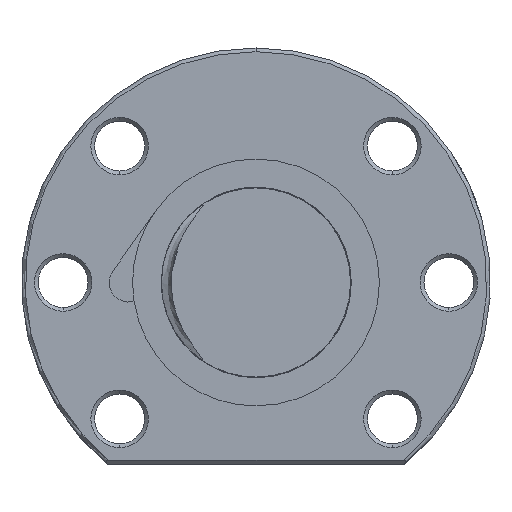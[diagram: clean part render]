
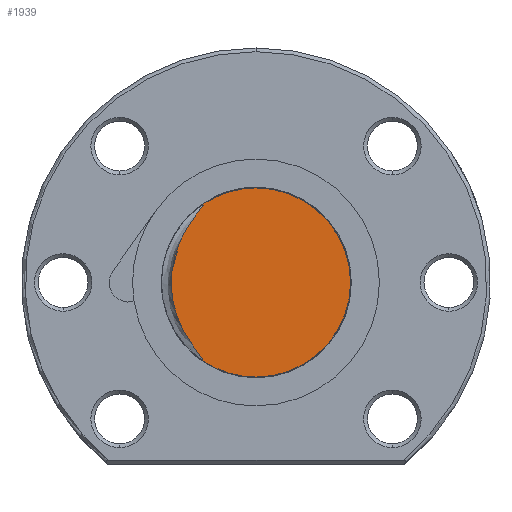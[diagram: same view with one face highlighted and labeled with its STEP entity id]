
A CAD part, left-side view. The second image highlights one B-rep face of the part: STEP entity #1939.
In plain terms, the highlighted planar face has unit normal (-1, 0, 0).
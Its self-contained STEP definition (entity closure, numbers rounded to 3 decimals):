
#1182 = VERTEX_POINT ( 'NONE', #3751 ) ;
#1184 = EDGE_CURVE ( 'NONE', #1182, #1187, #3743, .T. ) ;
#1187 = VERTEX_POINT ( 'NONE', #3498 ) ;
#1205 = VERTEX_POINT ( 'NONE', #3586 ) ;
#1207 = EDGE_CURVE ( 'NONE', #1205, #1211, #3651, .T. ) ;
#1211 = VERTEX_POINT ( 'NONE', #3685 ) ;
#1314 = EDGE_CURVE ( 'NONE', #1187, #1205, #4973, .T. ) ;
#1921 = ORIENTED_EDGE ( 'NONE', *, *, #1207, .F. ) ;
#1922 = ORIENTED_EDGE ( 'NONE', *, *, #1314, .F. ) ;
#1939 = ADVANCED_FACE ( 'NONE', ( #6641 ), #6640, .F. ) ;
#1940 = EDGE_LOOP ( 'NONE', ( #1941, #1942, #1921, #1922 ) ) ;
#1941 = ORIENTED_EDGE ( 'NONE', *, *, #1184, .F. ) ;
#1942 = ORIENTED_EDGE ( 'NONE', *, *, #1943, .T. ) ;
#1943 = EDGE_CURVE ( 'NONE', #1182, #1211, #6635, .T. ) ;
#3498 = CARTESIAN_POINT ( 'NONE',  ( -100., 0., 12.5 ) ) ;
#3586 = CARTESIAN_POINT ( 'NONE',  ( -100., 0., -12.5 ) ) ;
#3647 = DIRECTION ( 'NONE',  ( 0., 1., 0. ) ) ;
#3648 = DIRECTION ( 'NONE',  ( 1., 0., 0. ) ) ;
#3649 = CARTESIAN_POINT ( 'NONE',  ( -100., 0., 0. ) ) ;
#3650 = AXIS2_PLACEMENT_3D ( 'NONE', #3649, #3648, #3647 ) ;
#3651 = CIRCLE ( 'NONE', #3650, 12.5 ) ;
#3685 = CARTESIAN_POINT ( 'NONE',  ( -100., 6.887, -10.432 ) ) ;
#3740 = DIRECTION ( 'NONE',  ( 0., 1., 0. ) ) ;
#3741 = DIRECTION ( 'NONE',  ( 1., 0., 0. ) ) ;
#3742 = AXIS2_PLACEMENT_3D ( 'NONE', #3748, #3741, #3740 ) ;
#3743 = CIRCLE ( 'NONE', #3742, 12.5 ) ;
#3748 = CARTESIAN_POINT ( 'NONE',  ( -100., 0., 0. ) ) ;
#3751 = CARTESIAN_POINT ( 'NONE',  ( -100., 6.887, 10.432 ) ) ;
#4968 = DIRECTION ( 'NONE',  ( 0., 1., 0. ) ) ;
#4970 = DIRECTION ( 'NONE',  ( 1., 0., 0. ) ) ;
#4972 = CARTESIAN_POINT ( 'NONE',  ( -100., 0., 0. ) ) ;
#4973 = CIRCLE ( 'NONE', #4978, 12.5 ) ;
#4978 = AXIS2_PLACEMENT_3D ( 'NONE', #4972, #4970, #4968 ) ;
#6624 = CARTESIAN_POINT ( 'NONE',  ( -100., 9.578, 6.451 ) ) ;
#6625 = CARTESIAN_POINT ( 'NONE',  ( -100., 9.093, 7.277 ) ) ;
#6626 = CARTESIAN_POINT ( 'NONE',  ( -100., 8.275, 8.463 ) ) ;
#6627 = CARTESIAN_POINT ( 'NONE',  ( -100., 7.986, 8.849 ) ) ;
#6628 = CARTESIAN_POINT ( 'NONE',  ( -100., 7.55, 9.427 ) ) ;
#6629 = CARTESIAN_POINT ( 'NONE',  ( -100., 7.404, 9.619 ) ) ;
#6630 = CARTESIAN_POINT ( 'NONE',  ( -100., 7.194, 9.913 ) ) ;
#6631 = CARTESIAN_POINT ( 'NONE',  ( -100., 7.125, 10.012 ) ) ;
#6632 = CARTESIAN_POINT ( 'NONE',  ( -100., 6.996, 10.216 ) ) ;
#6633 = CARTESIAN_POINT ( 'NONE',  ( -100., 6.934, 10.321 ) ) ;
#6634 = CARTESIAN_POINT ( 'NONE',  ( -100., 6.887, 10.432 ) ) ;
#6635 = B_SPLINE_CURVE_WITH_KNOTS ( 'NONE', 3,
 ( #6634, #6633, #6632, #6631, #6630, #6629, #6628, #6627, #6626, #6625, #6624, #6683, #6682, #6681, #6680, #6679, #6678, #6677, #6676, #6675, #6674, #6673, #6672, #6671, #6670, #6669, #6668, #6667, #6666, #6665, #6664, #6663, #6662, #6661, #6660, #6659 ),
 .UNSPECIFIED., .F., .F.,
 ( 4, 2, 2, 2, 2, 2, 2, 2, 2, 2, 2, 2, 2, 2, 2, 2, 2, 4 ),
 ( 0.008, 0.008, 0.009, 0.009, 0.011, 0.014, 0.015, 0.017, 0.019, 0.021, 0.022, 0.024, 0.025, 0.028, 0.03, 0.03, 0.031, 0.031 ),
 .UNSPECIFIED. ) ;
#6636 = DIRECTION ( 'NONE',  ( 0., 0., -1. ) ) ;
#6637 = DIRECTION ( 'NONE',  ( 1., 0., 0. ) ) ;
#6638 = CARTESIAN_POINT ( 'NONE',  ( -100., 0., 0. ) ) ;
#6639 = AXIS2_PLACEMENT_3D ( 'NONE', #6638, #6637, #6636 ) ;
#6640 = PLANE ( 'NONE',  #6639 ) ;
#6641 = FACE_OUTER_BOUND ( 'NONE', #1940, .T. ) ;
#6659 = CARTESIAN_POINT ( 'NONE',  ( -100., 6.887, -10.432 ) ) ;
#6660 = CARTESIAN_POINT ( 'NONE',  ( -100., 6.934, -10.321 ) ) ;
#6661 = CARTESIAN_POINT ( 'NONE',  ( -100., 6.996, -10.216 ) ) ;
#6662 = CARTESIAN_POINT ( 'NONE',  ( -100., 7.124, -10.013 ) ) ;
#6663 = CARTESIAN_POINT ( 'NONE',  ( -100., 7.193, -9.915 ) ) ;
#6664 = CARTESIAN_POINT ( 'NONE',  ( -100., 7.402, -9.621 ) ) ;
#6665 = CARTESIAN_POINT ( 'NONE',  ( -100., 7.548, -9.43 ) ) ;
#6666 = CARTESIAN_POINT ( 'NONE',  ( -100., 7.982, -8.854 ) ) ;
#6667 = CARTESIAN_POINT ( 'NONE',  ( -100., 8.27, -8.469 ) ) ;
#6668 = CARTESIAN_POINT ( 'NONE',  ( -100., 9.086, -7.287 ) ) ;
#6669 = CARTESIAN_POINT ( 'NONE',  ( -100., 9.571, -6.464 ) ) ;
#6670 = CARTESIAN_POINT ( 'NONE',  ( -100., 10.172, -5.155 ) ) ;
#6671 = CARTESIAN_POINT ( 'NONE',  ( -100., 10.352, -4.703 ) ) ;
#6672 = CARTESIAN_POINT ( 'NONE',  ( -100., 10.662, -3.788 ) ) ;
#6673 = CARTESIAN_POINT ( 'NONE',  ( -100., 10.791, -3.326 ) ) ;
#6674 = CARTESIAN_POINT ( 'NONE',  ( -100., 10.999, -2.392 ) ) ;
#6675 = CARTESIAN_POINT ( 'NONE',  ( -100., 11.079, -1.92 ) ) ;
#6676 = CARTESIAN_POINT ( 'NONE',  ( -100., 11.185, -0.966 ) ) ;
#6677 = CARTESIAN_POINT ( 'NONE',  ( -100., 11.213, -0.481 ) ) ;
#6678 = CARTESIAN_POINT ( 'NONE',  ( -100., 11.212, 0.969 ) ) ;
#6679 = CARTESIAN_POINT ( 'NONE',  ( -100., 11.104, 1.917 ) ) ;
#6680 = CARTESIAN_POINT ( 'NONE',  ( -100., 10.795, 3.313 ) ) ;
#6681 = CARTESIAN_POINT ( 'NONE',  ( -100., 10.666, 3.774 ) ) ;
#6682 = CARTESIAN_POINT ( 'NONE',  ( -100., 10.358, 4.687 ) ) ;
#6683 = CARTESIAN_POINT ( 'NONE',  ( -100., 10.178, 5.14 ) ) ;
